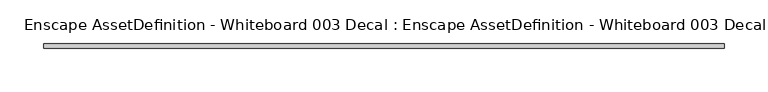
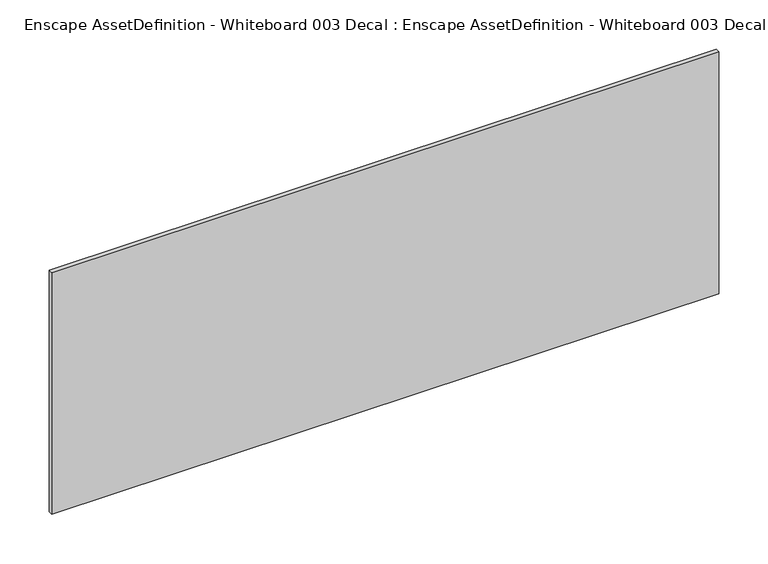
"""IFC4 building model written with IfcOpenShell, lengths in millimetres: geographic element geometry, Enscape AssetDefinition - Whiteboard 003 Decal : Enscape AssetDefinition - Whiteboard 003 Decal."""

from ifc_helpers import new_model, si_unit, origin, place, context, project, spatial, triangles, source, transform, mapped, element, save


def enscape_assetdefinition_whiteboard_003_decal_enscape_eed20a52(model_context):
    return source(origin(), model_context, "Body", "Tessellation", [
        triangles([(391.3043492, -5.2173908, 150.0000011), (391.3043492, 0.0, -150.0000011), (-391.3043492, 0.0, -150.0000011), (-391.3043492, -5.2173908, 150.0000011), (-391.3043492, 0.0, 150.0000011), (391.3043492, -5.2173908, -150.0000011), (-391.3043492, -5.2173908, -150.0000011), (391.3043492, 0.0, 150.0000011)], [[7, 6, 1], [3, 7, 4], [8, 1, 6], [2, 6, 7], [5, 4, 1], [5, 8, 2], [7, 1, 4], [3, 4, 5], [8, 6, 2], [2, 7, 3], [5, 1, 8], [5, 2, 3]]),
    ])


if __name__ == "__main__":
    model = new_model("IFC4")
    model_context = context("Model", 3, world=origin())
    ifc_project = project(units=[si_unit("LENGTHUNIT", "METRE", prefix="MILLI")], contexts=[model_context])
    site = spatial("IfcSite", under=ifc_project)
    building = spatial("IfcBuilding", under=site)
    placement = place(None, origin())
    enscape_assetdefinition_whiteboard_003_decal_enscape_shape = enscape_assetdefinition_whiteboard_003_decal_enscape_eed20a52(model_context)
    element("IfcGeographicElement", 1, ObjectType="Enscape AssetDefinition - Whiteboard 003 Decal : Enscape AssetDefinition - Whiteboard 003 Decal", at=placement, inside=building, context=model_context, shape_type="MappedRepresentation", body=[
        mapped(enscape_assetdefinition_whiteboard_003_decal_enscape_shape, transform((0.0, 0.0, 0.0), x_axis=(1.0, 0.0, 0.0), y_axis=(0.0, 1.0, 0.0), z_axis=(0.0, 0.0, 1.0))),
    ])
    save(model, "model.ifc")
